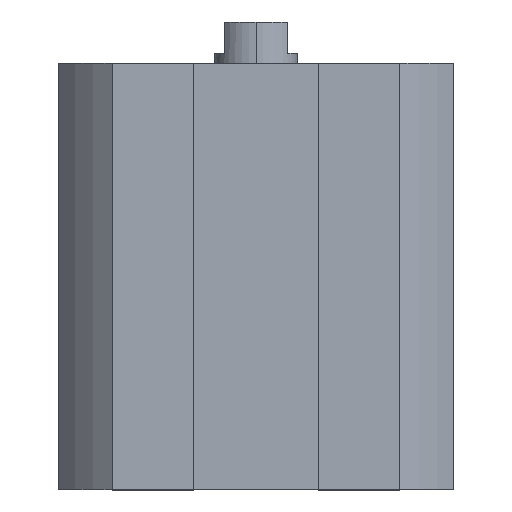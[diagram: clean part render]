
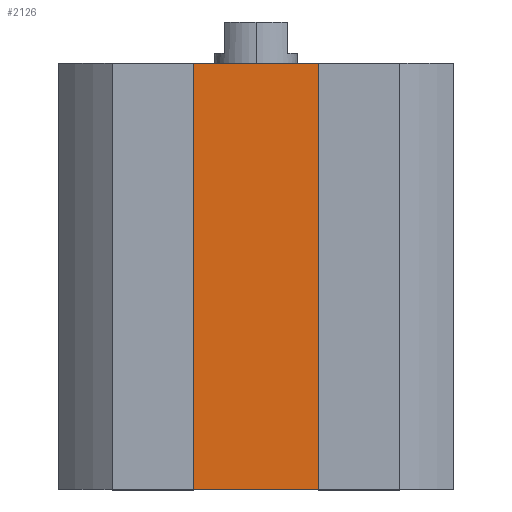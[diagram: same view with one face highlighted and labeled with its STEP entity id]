
A CAD part, top view. The second image highlights one B-rep face of the part: STEP entity #2126.
In plain terms, the highlighted planar face has unit normal (0, 0, 1).
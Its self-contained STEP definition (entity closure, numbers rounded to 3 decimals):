
#92 = DIRECTION ( 'NONE',  ( 0., 1., 0. ) ) ;
#159 = ORIENTED_EDGE ( 'NONE', *, *, #1762, .F. ) ;
#191 = ORIENTED_EDGE ( 'NONE', *, *, #1176, .T. ) ;
#216 = VERTEX_POINT ( 'NONE', #332 ) ;
#332 = CARTESIAN_POINT ( 'NONE',  ( -7.75, -41., 12.75 ) ) ;
#571 = LINE ( 'NONE', #1347, #1275 ) ;
#838 = AXIS2_PLACEMENT_3D ( 'NONE', #2042, #1033, #1625 ) ;
#1033 = DIRECTION ( 'NONE',  ( 0., 0., 1. ) ) ;
#1149 = DIRECTION ( 'NONE',  ( 1., 0., 0. ) ) ;
#1176 = EDGE_CURVE ( 'NONE', #2057, #1248, #1277, .T. ) ;
#1248 = VERTEX_POINT ( 'NONE', #2484 ) ;
#1275 = VECTOR ( 'NONE', #1149, 1000. ) ;
#1277 = LINE ( 'NONE', #2087, #2014 ) ;
#1347 = CARTESIAN_POINT ( 'NONE',  ( 0., 0., 12.75 ) ) ;
#1412 = LINE ( 'NONE', #2232, #2405 ) ;
#1625 = DIRECTION ( 'NONE',  ( 1., 0., 0. ) ) ;
#1668 = EDGE_CURVE ( 'NONE', #216, #1674, #2448, .T. ) ;
#1674 = VERTEX_POINT ( 'NONE', #2582 ) ;
#1682 = DIRECTION ( 'NONE',  ( 0., 1., 0. ) ) ;
#1701 = FACE_OUTER_BOUND ( 'NONE', #1916, .T. ) ;
#1716 = ORIENTED_EDGE ( 'NONE', *, *, #1668, .F. ) ;
#1762 = EDGE_CURVE ( 'NONE', #1674, #1248, #571, .T. ) ;
#1814 = CARTESIAN_POINT ( 'NONE',  ( 7.75, -41., 12.75 ) ) ;
#1916 = EDGE_LOOP ( 'NONE', ( #159, #1716, #2444, #191 ) ) ;
#2014 = VECTOR ( 'NONE', #1682, 1000. ) ;
#2042 = CARTESIAN_POINT ( 'NONE',  ( 0., -41., 12.75 ) ) ;
#2057 = VERTEX_POINT ( 'NONE', #1814 ) ;
#2064 = VECTOR ( 'NONE', #92, 1000. ) ;
#2074 = EDGE_CURVE ( 'NONE', #216, #2057, #1412, .T. ) ;
#2087 = CARTESIAN_POINT ( 'NONE',  ( 7.75, -41., 12.75 ) ) ;
#2126 = ADVANCED_FACE ( 'NONE', ( #1701 ), #2250, .T. ) ;
#2232 = CARTESIAN_POINT ( 'NONE',  ( 0., -41., 12.75 ) ) ;
#2246 = DIRECTION ( 'NONE',  ( 1., 0., 0. ) ) ;
#2250 = PLANE ( 'NONE',  #838 ) ;
#2405 = VECTOR ( 'NONE', #2246, 1000. ) ;
#2444 = ORIENTED_EDGE ( 'NONE', *, *, #2074, .T. ) ;
#2448 = LINE ( 'NONE', #2545, #2064 ) ;
#2484 = CARTESIAN_POINT ( 'NONE',  ( 7.75, 0., 12.75 ) ) ;
#2545 = CARTESIAN_POINT ( 'NONE',  ( -7.75, -41., 12.75 ) ) ;
#2582 = CARTESIAN_POINT ( 'NONE',  ( -7.75, 0., 12.75 ) ) ;
